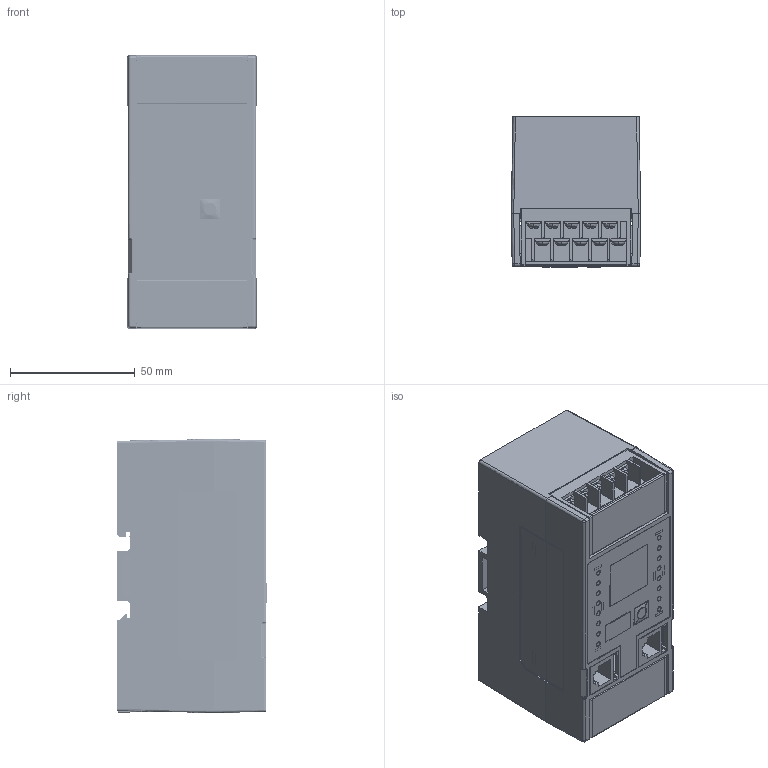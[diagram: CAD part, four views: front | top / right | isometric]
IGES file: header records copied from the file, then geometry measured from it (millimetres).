
Global section: file name: \\10.10.10.21\; native system: Rhinoceros ( Aug 10 2015 ); preprocessor: Trout Lake IGES 012 Aug 10 2015; date: 160707.112503; units: millimetre
Bounding box: 52 x 60.2 x 110 mm (x, y, z)
Surface area: 110934.9 mm2 (no closed solid volume)
Topology: 0 solids, 0 shells, 2835 faces, 16784 edges, 16718 vertices
Faces by surface type: bspline 2835
